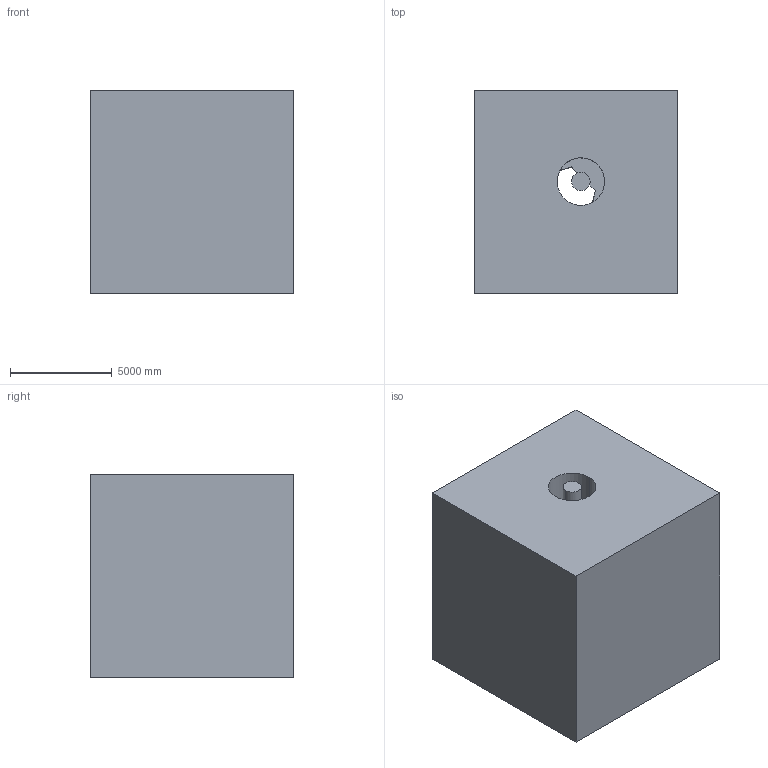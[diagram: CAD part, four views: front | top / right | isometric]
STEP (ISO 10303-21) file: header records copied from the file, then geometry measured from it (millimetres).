
FILE_DESCRIPTION (( 'STEP AP203' ), '1' );
FILE_NAME ('1122.STEP', '2022-08-18T12:50:51', ( 'user' ), ( '' ), 'SwSTEP 2.0', 'SolidWorks 2021', '' );
FILE_SCHEMA (( 'CONFIG_CONTROL_DESIGN' ));
Length unit declared in the file: centimetre
Products named in the file (1): 1122
Bounding box: 10000 x 10000 x 10000 mm (x, y, z)
Volume: 933280213270.7 mm3; surface area: 701170294.2 mm2
Topology: 1 solids, 1 shells, 20 faces, 54 edges, 36 vertices
Faces by surface type: plane 16, cylinder 4
Entity records: 711 total; most frequent: CARTESIAN_POINT 111, DIRECTION 108, ORIENTED_EDGE 108, EDGE_CURVE 54, VECTOR 42, LINE 42, VERTEX_POINT 36, AXIS2_PLACEMENT_3D 33
